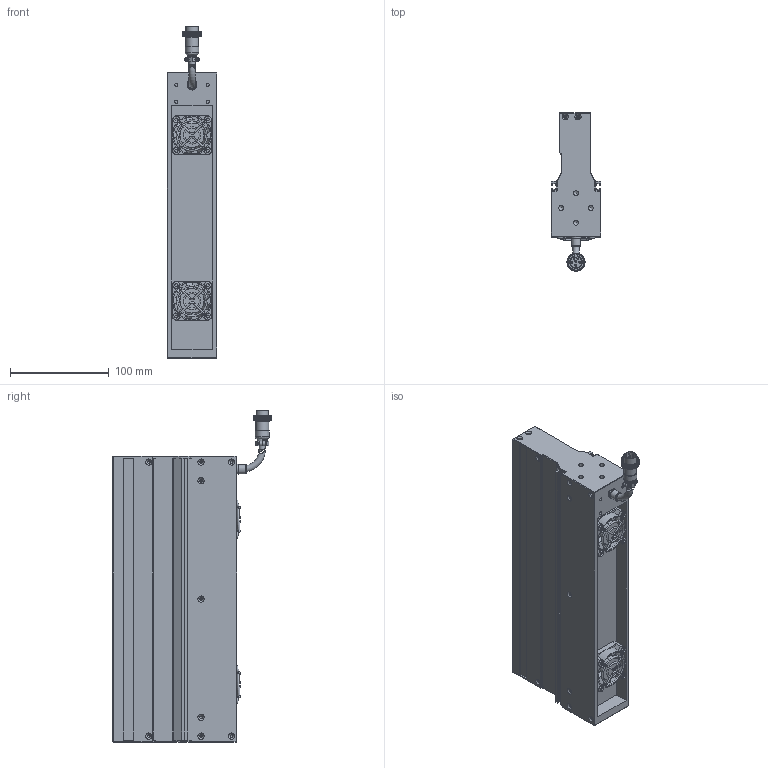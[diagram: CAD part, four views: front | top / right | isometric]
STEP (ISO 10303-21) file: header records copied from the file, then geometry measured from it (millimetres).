
FILE_DESCRIPTION (( 'STEP AP203' ), '1' );
FILE_NAME ('OPT-LSSC290-R-V3.1U尨砩芞.STEP', '2025-02-05T03:27:25', ( 'USER' ), ( '' ), 'SwSTEP 2.0', 'SolidWorks 2016', '' );
FILE_SCHEMA (( 'CONFIG_CONTROL_DESIGN' ));
Length unit declared in the file: millimetre
Products named in the file (2): OPT-LSSC290-R-V3.1U尨砩芞
Bounding box: 50 x 160.65 x 336.83 mm (x, y, z)
Volume: 1121028.8 mm3; surface area: 226417.1 mm2
Topology: 14 solids, 22 shells, 3793 faces, 8420 edges, 4740 vertices
Faces by surface type: bspline 2113, cylinder 771, plane 760, torus 82, cone 67
Full cylindrical faces by diameter (mm): 0.95 x6, 1.6 x8, 2 x6, 2.5 x22, 3.2 x12, 3.4 x24, 4 x4, 5 x8, 6.2 x8, 6.4 x3, 7.5 x1, 8.6 x1, 9.3 x1, 9.8 x1, 10 x1, 13.2 x1, 14 x1, 16.1 x1, 24.8 x2, 38 x2
Entity records: 127457 total; most frequent: CARTESIAN_POINT 63681, ORIENTED_EDGE 16242, EDGE_CURVE 8121, DIRECTION 6538, B_SPLINE_CURVE_WITH_KNOTS 5590, VERTEX_POINT 4667, EDGE_LOOP 4122, FACE_OUTER_BOUND 3950
